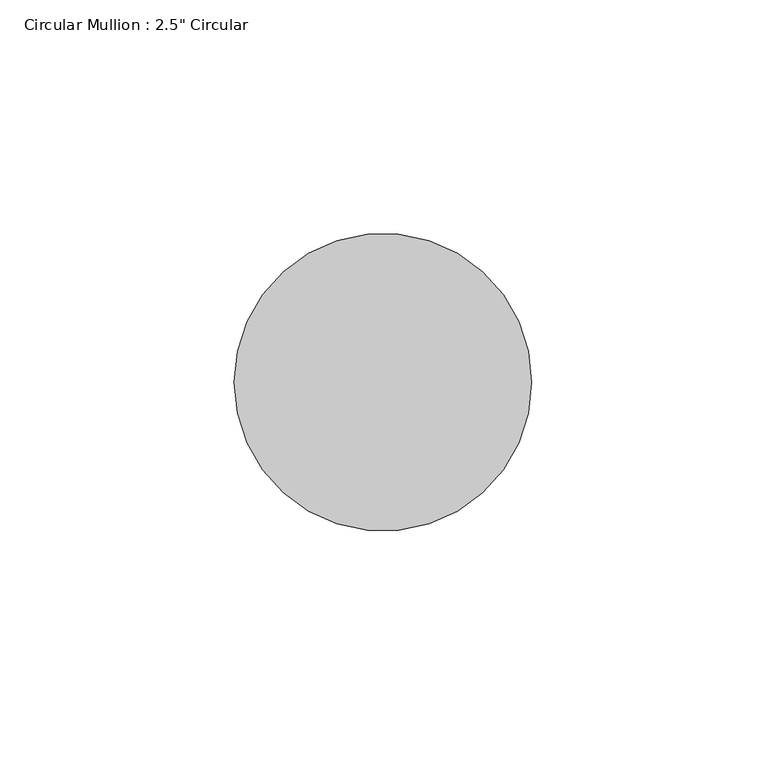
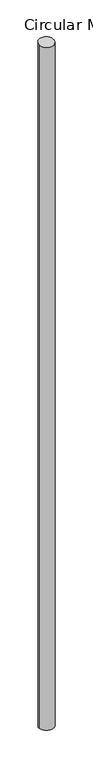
"""IFC4 building model written with IfcOpenShell, lengths in millimetres: member geometry."""

from ifc_helpers import new_model, si_unit, frame, origin, place, context, project, spatial, ellipse_curve, source, transform, mapped, element, save
from ifc_brep_helpers import plane_surface, cylinder_surface, advanced_brep


def member_c775a8c0(model_context):
    return source(origin(), model_context, "Body", "AdvancedBrep", [
        advanced_brep(
        [(-63.5, 0.0, -2.3709792), (0.0, 0.0, 0.0), (0.0, 0.0, -3090.1074967), (-63.5, 0.0, -3087.9956873)],
        [
            (0, 1, ellipse_curve(frame((-31.75, 0.0, -1.1854896), z_axis=(0.037174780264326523, 0.08576308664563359, -0.9956217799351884), x_axis=(0.395963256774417, 0.9134964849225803, 0.09347337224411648)), 31.8896198, 31.75)),
            (1, 2),
            (2, 3, ellipse_curve(frame((-31.75, 0.0, -3089.051592), z_axis=(0.03314117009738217, 0.07645745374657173, 0.9965219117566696), x_axis=(-0.39632124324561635, -0.9143223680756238, 0.08333114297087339)), 31.8608147, 31.75)),
            (3, 0),
            (1, 0, ellipse_curve(frame((-31.75, 0.0, -1.1854896), z_axis=(0.037174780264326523, 0.08576308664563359, -0.9956217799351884), x_axis=(0.395963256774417, 0.9134964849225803, 0.09347337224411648)), 31.8896198, 31.75)),
            (3, 2, ellipse_curve(frame((-31.75, 0.0, -3089.051592), z_axis=(0.03314117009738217, 0.07645745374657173, 0.9965219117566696), x_axis=(-0.39632124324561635, -0.9143223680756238, 0.08333114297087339)), 31.8608147, 31.75)),
        ],
        [
            cylinder_surface(frame((-31.75, 0.0, 0.0), z_axis=(0.0, 0.0, 1.0), x_axis=(1.0, 0.0, 0.0)), 31.75),
            plane_surface(frame((279.6581335, -121.2203299, 0.0), z_axis=(-0.037174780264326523, -0.08576308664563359, 0.9956217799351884), x_axis=(-0.39596325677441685, -0.9134964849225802, -0.09347337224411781))),
            plane_surface(frame((279.6581335, -121.2203299, -3090.1074967), z_axis=(-0.03314117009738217, -0.07645745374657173, -0.9965219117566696), x_axis=(-0.39632124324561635, -0.9143223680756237, 0.08333114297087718))),
        ],
        [
            (0, [[1, 2, 3, 4]]),
            (0, [[5, -4, 6, -2]]),
            (1, [[-1, -5]]),
            (2, [[-6, -3]]),
        ],
    ),
    ])


if __name__ == "__main__":
    model = new_model("IFC4")
    model_context = context("Model", 3, world=origin())
    ifc_project = project(units=[si_unit("LENGTHUNIT", "METRE", prefix="MILLI")], contexts=[model_context])
    site = spatial("IfcSite", under=ifc_project)
    building = spatial("IfcBuilding", under=site)
    placement = place(None, origin())
    member_shape = member_c775a8c0(model_context)
    element("IfcMember", 1, ObjectType="Circular Mullion : 2.5\" Circular", at=placement, inside=building, context=model_context, shape_type="MappedRepresentation", body=[
        mapped(member_shape, transform((0.0, 0.0, 0.0), x_axis=(1.0, 0.0, 0.0), y_axis=(0.0, 1.0, 0.0), z_axis=(0.0, 0.0, 1.0))),
    ])
    save(model, "model.ifc")
